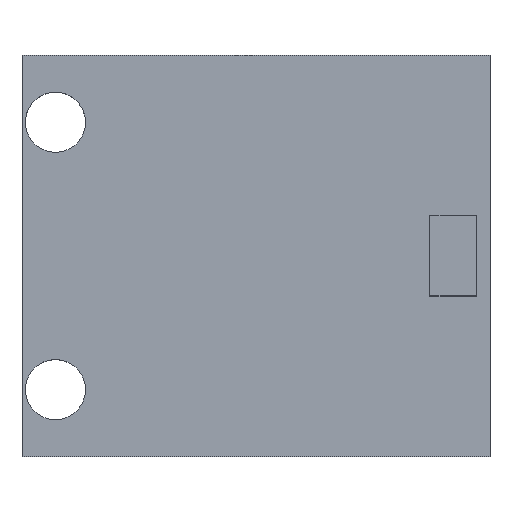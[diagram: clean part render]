
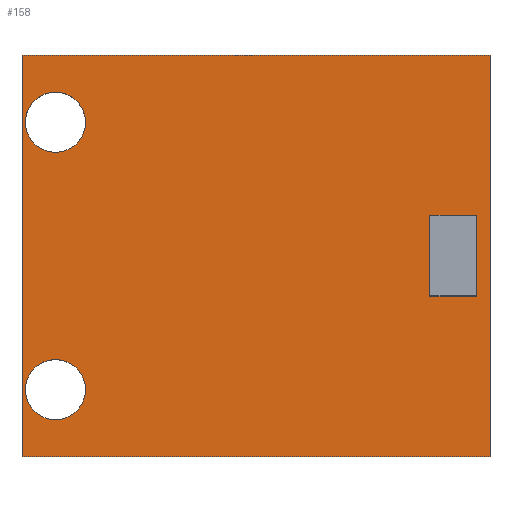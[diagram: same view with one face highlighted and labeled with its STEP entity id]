
A CAD part, top view. The second image highlights one B-rep face of the part: STEP entity #158.
In plain terms, the highlighted planar face has unit normal (0, 0, 1).
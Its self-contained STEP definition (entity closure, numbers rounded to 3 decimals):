
#24 = VERTEX_POINT('',#25);
#25 = CARTESIAN_POINT('',(60.,-30.,0.));
#31 = EDGE_CURVE('',#24,#32,#34,.T.);
#32 = VERTEX_POINT('',#33);
#33 = CARTESIAN_POINT('',(130.,-30.,0.));
#34 = LINE('',#35,#36);
#35 = CARTESIAN_POINT('',(60.,-30.,0.));
#36 = VECTOR('',#37,1.);
#37 = DIRECTION('',(1.,0.,0.));
#64 = VERTEX_POINT('',#65);
#65 = CARTESIAN_POINT('',(60.,30.,0.));
#71 = EDGE_CURVE('',#64,#24,#72,.T.);
#72 = LINE('',#73,#74);
#73 = CARTESIAN_POINT('',(60.,30.,0.));
#74 = VECTOR('',#75,1.);
#75 = DIRECTION('',(0.,-1.,0.));
#93 = EDGE_CURVE('',#32,#94,#96,.T.);
#94 = VERTEX_POINT('',#95);
#95 = CARTESIAN_POINT('',(130.,30.,0.));
#96 = LINE('',#97,#98);
#97 = CARTESIAN_POINT('',(130.,-30.,0.));
#98 = VECTOR('',#99,1.);
#99 = DIRECTION('',(0.,1.,0.));
#158 = ADVANCED_FACE('',(#159,#170,#181,#215),#226,.T.);
#159 = FACE_BOUND('',#160,.T.);
#160 = EDGE_LOOP('',(#161,#162,#163,#169));
#161 = ORIENTED_EDGE('',*,*,#31,.T.);
#162 = ORIENTED_EDGE('',*,*,#93,.T.);
#163 = ORIENTED_EDGE('',*,*,#164,.T.);
#164 = EDGE_CURVE('',#94,#64,#165,.T.);
#165 = LINE('',#166,#167);
#166 = CARTESIAN_POINT('',(130.,30.,0.));
#167 = VECTOR('',#168,1.);
#168 = DIRECTION('',(-1.,0.,0.));
#169 = ORIENTED_EDGE('',*,*,#71,.T.);
#170 = FACE_BOUND('',#171,.T.);
#171 = EDGE_LOOP('',(#172));
#172 = ORIENTED_EDGE('',*,*,#173,.F.);
#173 = EDGE_CURVE('',#174,#174,#176,.T.);
#174 = VERTEX_POINT('',#175);
#175 = CARTESIAN_POINT('',(69.5,-20.,0.));
#176 = CIRCLE('',#177,4.5);
#177 = AXIS2_PLACEMENT_3D('',#178,#179,#180);
#178 = CARTESIAN_POINT('',(65.,-20.,0.));
#179 = DIRECTION('',(0.,0.,1.));
#180 = DIRECTION('',(1.,0.,0.));
#181 = FACE_BOUND('',#182,.T.);
#182 = EDGE_LOOP('',(#183,#193,#201,#209));
#183 = ORIENTED_EDGE('',*,*,#184,.T.);
#184 = EDGE_CURVE('',#185,#187,#189,.T.);
#185 = VERTEX_POINT('',#186);
#186 = CARTESIAN_POINT('',(128.,6.,0.));
#187 = VERTEX_POINT('',#188);
#188 = CARTESIAN_POINT('',(128.,-6.,0.));
#189 = LINE('',#190,#191);
#190 = CARTESIAN_POINT('',(128.,-3.,0.));
#191 = VECTOR('',#192,1.);
#192 = DIRECTION('',(0.,-1.,0.));
#193 = ORIENTED_EDGE('',*,*,#194,.T.);
#194 = EDGE_CURVE('',#187,#195,#197,.T.);
#195 = VERTEX_POINT('',#196);
#196 = CARTESIAN_POINT('',(121.,-6.,0.));
#197 = LINE('',#198,#199);
#198 = CARTESIAN_POINT('',(108.,-6.,0.));
#199 = VECTOR('',#200,1.);
#200 = DIRECTION('',(-1.,0.,0.));
#201 = ORIENTED_EDGE('',*,*,#202,.T.);
#202 = EDGE_CURVE('',#195,#203,#205,.T.);
#203 = VERTEX_POINT('',#204);
#204 = CARTESIAN_POINT('',(121.,6.,0.));
#205 = LINE('',#206,#207);
#206 = CARTESIAN_POINT('',(121.,3.,0.));
#207 = VECTOR('',#208,1.);
#208 = DIRECTION('',(0.,1.,0.));
#209 = ORIENTED_EDGE('',*,*,#210,.T.);
#210 = EDGE_CURVE('',#203,#185,#211,.T.);
#211 = LINE('',#212,#213);
#212 = CARTESIAN_POINT('',(111.5,6.,0.));
#213 = VECTOR('',#214,1.);
#214 = DIRECTION('',(1.,0.,0.));
#215 = FACE_BOUND('',#216,.T.);
#216 = EDGE_LOOP('',(#217));
#217 = ORIENTED_EDGE('',*,*,#218,.F.);
#218 = EDGE_CURVE('',#219,#219,#221,.T.);
#219 = VERTEX_POINT('',#220);
#220 = CARTESIAN_POINT('',(69.5,20.,0.));
#221 = CIRCLE('',#222,4.5);
#222 = AXIS2_PLACEMENT_3D('',#223,#224,#225);
#223 = CARTESIAN_POINT('',(65.,20.,0.));
#224 = DIRECTION('',(0.,0.,1.));
#225 = DIRECTION('',(1.,0.,0.));
#226 = PLANE('',#227);
#227 = AXIS2_PLACEMENT_3D('',#228,#229,#230);
#228 = CARTESIAN_POINT('',(95.,0.,0.));
#229 = DIRECTION('',(0.,0.,1.));
#230 = DIRECTION('',(1.,0.,0.));
